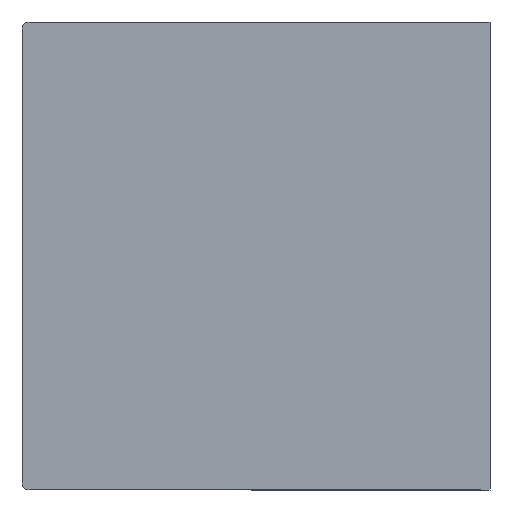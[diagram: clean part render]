
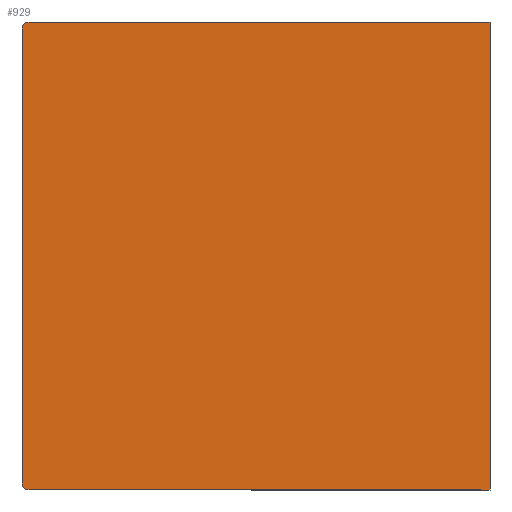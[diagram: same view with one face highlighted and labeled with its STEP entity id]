
A CAD part, left-side view. The second image highlights one B-rep face of the part: STEP entity #929.
In plain terms, the highlighted planar face has unit normal (-1, 0, 0).
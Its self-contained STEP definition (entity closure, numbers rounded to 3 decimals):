
#4 = ORIENTED_EDGE ( 'NONE', *, *, #711, .T. ) ;
#14 = CARTESIAN_POINT ( 'NONE',  ( -66., -166., 0. ) ) ;
#28 = DIRECTION ( 'NONE',  ( 0., 0., 1. ) ) ;
#37 = DIRECTION ( 'NONE',  ( -1., 0., 0. ) ) ;
#57 = ORIENTED_EDGE ( 'NONE', *, *, #962, .F. ) ;
#66 = VERTEX_POINT ( 'NONE', #404 ) ;
#120 = DIRECTION ( 'NONE',  ( 0., 0., 1. ) ) ;
#156 = EDGE_CURVE ( 'NONE', #481, #385, #801, .T. ) ;
#194 = CARTESIAN_POINT ( 'NONE',  ( -66., 0., 0. ) ) ;
#241 = AXIS2_PLACEMENT_3D ( 'NONE', #194, #932, #120 ) ;
#277 = ORIENTED_EDGE ( 'NONE', *, *, #575, .T. ) ;
#282 = CARTESIAN_POINT ( 'NONE',  ( -66., -38., 127. ) ) ;
#299 = CIRCLE ( 'NONE', #1029, 2. ) ;
#337 = VECTOR ( 'NONE', #826, 1000. ) ;
#373 = EDGE_CURVE ( 'NONE', #762, #66, #723, .T. ) ;
#385 = VERTEX_POINT ( 'NONE', #713 ) ;
#397 = CARTESIAN_POINT ( 'NONE',  ( -66., -38., 1. ) ) ;
#404 = CARTESIAN_POINT ( 'NONE',  ( -66., -166., 129. ) ) ;
#430 = AXIS2_PLACEMENT_3D ( 'NONE', #397, #37, #666 ) ;
#445 = VECTOR ( 'NONE', #994, 1000. ) ;
#481 = VERTEX_POINT ( 'NONE', #570 ) ;
#492 = CARTESIAN_POINT ( 'NONE',  ( -66., 0., -1. ) ) ;
#553 = VERTEX_POINT ( 'NONE', #1021 ) ;
#570 = CARTESIAN_POINT ( 'NONE',  ( -66., -36., 1. ) ) ;
#571 = PLANE ( 'NONE',  #241 ) ;
#575 = EDGE_CURVE ( 'NONE', #814, #66, #831, .T. ) ;
#648 = ORIENTED_EDGE ( 'NONE', *, *, #156, .T. ) ;
#666 = DIRECTION ( 'NONE',  ( 0., 0., 1. ) ) ;
#709 = CARTESIAN_POINT ( 'NONE',  ( -66., -38., 129. ) ) ;
#711 = EDGE_CURVE ( 'NONE', #385, #814, #1132, .T. ) ;
#713 = CARTESIAN_POINT ( 'NONE',  ( -66., -38., -1. ) ) ;
#718 = CARTESIAN_POINT ( 'NONE',  ( -66., 0., 129. ) ) ;
#723 = LINE ( 'NONE', #718, #1157 ) ;
#750 = FACE_OUTER_BOUND ( 'NONE', #1027, .T. ) ;
#758 = CARTESIAN_POINT ( 'NONE',  ( -66., -36., 0. ) ) ;
#762 = VERTEX_POINT ( 'NONE', #709 ) ;
#801 = CIRCLE ( 'NONE', #430, 2. ) ;
#814 = VERTEX_POINT ( 'NONE', #852 ) ;
#826 = DIRECTION ( 'NONE',  ( 0., 0., 1. ) ) ;
#831 = LINE ( 'NONE', #14, #445 ) ;
#852 = CARTESIAN_POINT ( 'NONE',  ( -66., -166., -1. ) ) ;
#856 = LINE ( 'NONE', #758, #337 ) ;
#874 = EDGE_CURVE ( 'NONE', #762, #553, #299, .T. ) ;
#929 = ADVANCED_FACE ( 'NONE', ( #750 ), #571, .T. ) ;
#932 = DIRECTION ( 'NONE',  ( -1., 0., 0. ) ) ;
#939 = VECTOR ( 'NONE', #1120, 1000. ) ;
#962 = EDGE_CURVE ( 'NONE', #481, #553, #856, .T. ) ;
#969 = DIRECTION ( 'NONE',  ( 0., -1., 0. ) ) ;
#994 = DIRECTION ( 'NONE',  ( 0., 0., 1. ) ) ;
#1000 = DIRECTION ( 'NONE',  ( -1., 0., 0. ) ) ;
#1021 = CARTESIAN_POINT ( 'NONE',  ( -66., -36., 127. ) ) ;
#1027 = EDGE_LOOP ( 'NONE', ( #648, #4, #277, #1078, #1035, #57 ) ) ;
#1029 = AXIS2_PLACEMENT_3D ( 'NONE', #282, #1000, #28 ) ;
#1035 = ORIENTED_EDGE ( 'NONE', *, *, #874, .T. ) ;
#1078 = ORIENTED_EDGE ( 'NONE', *, *, #373, .F. ) ;
#1120 = DIRECTION ( 'NONE',  ( 0., -1., 0. ) ) ;
#1132 = LINE ( 'NONE', #492, #939 ) ;
#1157 = VECTOR ( 'NONE', #969, 1000. ) ;
